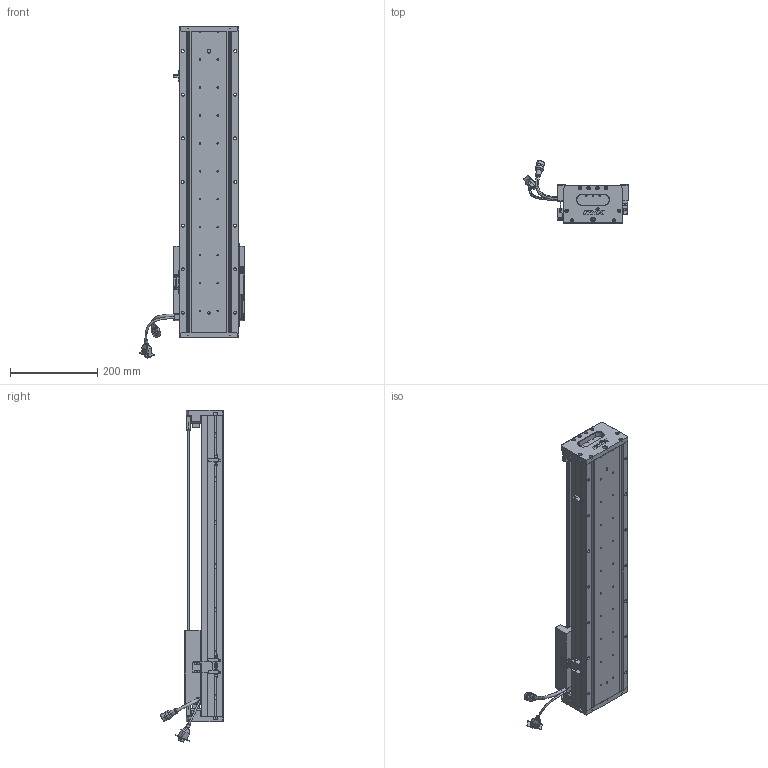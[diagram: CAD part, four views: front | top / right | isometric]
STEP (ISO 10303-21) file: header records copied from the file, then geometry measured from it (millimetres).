
FILE_DESCRIPTION (( 'STEP AP203' ), '1' );
FILE_NAME ('Z2-RY140D-1-L500-B-K.SLDASM_0450.step', '2021-05-17T07:44:54', ( '盈信电脑' ), ( '东莞市道滘镇水果街19号' ), 'SwSTEP 2.0', 'SolidWorks 2016', '' );
FILE_SCHEMA (( 'CONFIG_CONTROL_DESIGN' ));
Length unit declared in the file: millimetre
Products named in the file (36): HARNESS-Part-1; Z2-RY140圉猾敕臏賑輸(21遴); Z2-RY140-L500詩湍100mm遵_0450; Z-RY140感应器672光电感应片; HARNESS-Part-2; SCREW-M1.6; SHIELDPLATE; Z2-RY140D-1-L500-B-K.SLDASM_0450; SEAL-Part-1; 140蚥薯蝶輸; SEAL; SCALE-Part-2; LABEL-Part-1; SCREW-M1.7-1; SCREW-M1.6-2; PBU_SHEET; 140雄赽晤鎢ん堤盄; 覜茼ん672; SCREW-M1.6-3; Z-140詩湍傷裔啣; COVER-Part-1; 140-Z-臏賑輸盄裔(21遴); PSLH080_PSLF2; Z-RY140詩湍狟揤裔; SCREW-M1.6-1; COVER; 榋妏寠巭燃_暯_M2_2; Z-RY140詩湍奻揤裔; HARNESS; SCREW-M1.7; HOLDER0; LABEL; SCALE-Part-1; 080黍杅芛假蚾釱21遴; SCALE; Z2-RY140-L500直线电机模组底座_0450
Assembly tree (41 placements, depth 4):
  Z2-RY140D-1-L500-B-K.SLDASM_0450
    Z2-RY140-L500直线电机模组底座_0450
    Z-RY140感应器672光电感应片
    Z2-RY140圉猾敕臏賑輸(21遴)
    覜茼ん672  x3
    Z2-RY140-L500詩湍100mm遵_0450
    PSLH080_PSLF2
      SCALE
        SCALE-Part-1
        SCALE-Part-2
      HARNESS
        HARNESS-Part-1
        HARNESS-Part-2
      LABEL
        LABEL-Part-1
      COVER
        COVER-Part-1
      SEAL
        SEAL-Part-1
      榋妏寠巭燃_暯_M2_2
      SHIELDPLATE
      SCREW-M1.7
      SCREW-M1.7-1
      PBU_SHEET
      SCREW-M1.6
      SCREW-M1.6-1
      SCREW-M1.6-2
      SCREW-M1.6-3
      HOLDER0
    080黍杅芛假蚾釱21遴
    140-Z-臏賑輸盄裔(21遴)
    Z-140詩湍傷裔啣  x2
    Z-RY140詩湍狟揤裔  x2
    Z-RY140詩湍奻揤裔  x2
    140蚥薯蝶輸  x2
    140雄赽晤鎢ん堤盄
Bounding box: 239.84 x 143.77 x 760.88 mm (x, y, z)
Volume: 2960582.5 mm3; surface area: 777414.3 mm2
Topology: 36 solids, 36 shells, 2726 faces, 7126 edges, 4513 vertices
Faces by surface type: cylinder 1230, plane 1102, cone 262, torus 79, bspline 53
Entity records: 78194 total; most frequent: CARTESIAN_POINT 19149, DIRECTION 11526, ORIENTED_EDGE 11436, EDGE_CURVE 5718, AXIS2_PLACEMENT_3D 4226, VERTEX_POINT 3681, VECTOR 3074, LINE 3074
